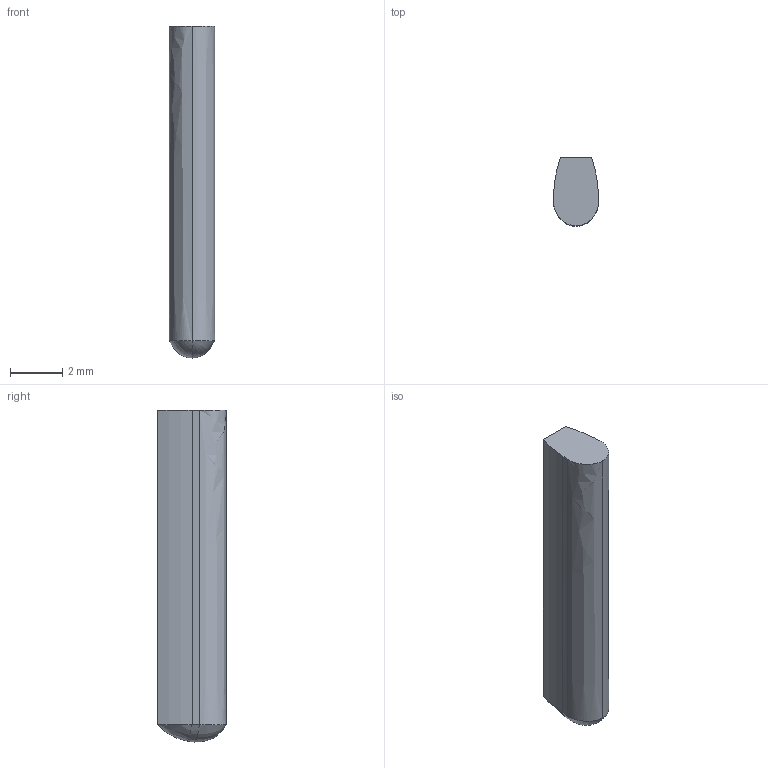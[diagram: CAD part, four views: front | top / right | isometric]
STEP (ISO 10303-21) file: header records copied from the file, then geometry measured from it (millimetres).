
FILE_DESCRIPTION((''),'2;1');
FILE_NAME('DE8-08','2008-09-08T',('awalter'),(''),'PRO/ENGINEER BY PARAMETRIC TECHNOLOGY CORPORATION, 2003450','PRO/ENGINEER BY PARAMETRIC TECHNOLOGY CORPORATION, 2003450','');
FILE_SCHEMA(('CONFIG_CONTROL_DESIGN'));
Length unit declared in the file: millimetre
Products named in the file (1): DE8-08
Bounding box: 1.74 x 2.61 x 12.66 mm (x, y, z)
Volume: 47.6 mm3; surface area: 97.9 mm2
Topology: 1 solids, 1 shells, 14 faces, 33 edges, 19 vertices
Faces by surface type: bspline 6, extrusion 4, plane 2, cylinder 2
Entity records: 633 total; most frequent: CARTESIAN_POINT 332, ORIENTED_EDGE 62, EDGE_CURVE 31, DIRECTION 30, B_SPLINE_CURVE_WITH_KNOTS 21, VERTEX_POINT 19, VECTOR 14, EDGE_LOOP 14
